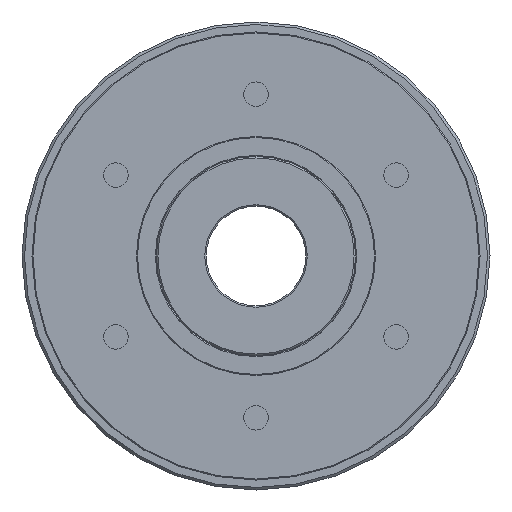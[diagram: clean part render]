
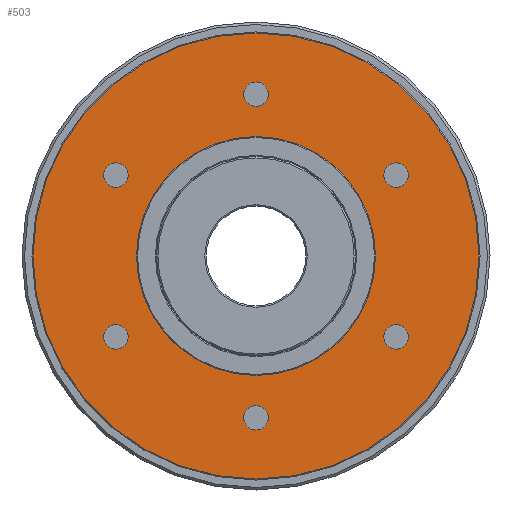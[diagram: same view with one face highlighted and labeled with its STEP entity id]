
A CAD part, left-side view. The second image highlights one B-rep face of the part: STEP entity #503.
In plain terms, the highlighted planar face has unit normal (-1, 0, 0).
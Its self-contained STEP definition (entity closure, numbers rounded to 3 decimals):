
#503 = ADVANCED_FACE( '', ( #1031, #1032, #1033, #1034, #1035, #1036, #1037, #1038 ), #1039, .T. );
#1031 = FACE_BOUND( '', #1731, .T. );
#1032 = FACE_BOUND( '', #1732, .T. );
#1033 = FACE_BOUND( '', #1733, .T. );
#1034 = FACE_BOUND( '', #1734, .T. );
#1035 = FACE_BOUND( '', #1735, .T. );
#1036 = FACE_BOUND( '', #1736, .T. );
#1037 = FACE_OUTER_BOUND( '', #1737, .T. );
#1038 = FACE_BOUND( '', #1738, .T. );
#1039 = PLANE( '', #1739 );
#1731 = EDGE_LOOP( '', ( #2475 ) );
#1732 = EDGE_LOOP( '', ( #2476 ) );
#1733 = EDGE_LOOP( '', ( #2477 ) );
#1734 = EDGE_LOOP( '', ( #2478 ) );
#1735 = EDGE_LOOP( '', ( #2479 ) );
#1736 = EDGE_LOOP( '', ( #2480 ) );
#1737 = EDGE_LOOP( '', ( #2481 ) );
#1738 = EDGE_LOOP( '', ( #2482 ) );
#1739 = AXIS2_PLACEMENT_3D( '', #2483, #2484, #2485 );
#2475 = ORIENTED_EDGE( '', *, *, #3450, .T. );
#2476 = ORIENTED_EDGE( '', *, *, #3451, .T. );
#2477 = ORIENTED_EDGE( '', *, *, #3366, .T. );
#2478 = ORIENTED_EDGE( '', *, *, #3452, .T. );
#2479 = ORIENTED_EDGE( '', *, *, #3453, .T. );
#2480 = ORIENTED_EDGE( '', *, *, #3454, .T. );
#2481 = ORIENTED_EDGE( '', *, *, #3455, .T. );
#2482 = ORIENTED_EDGE( '', *, *, #3456, .F. );
#2483 = CARTESIAN_POINT( '', ( 18.5, 0., 24. ) );
#2484 = DIRECTION( '', ( -1., 0., 0. ) );
#2485 = DIRECTION( '', ( 0., 0., 1. ) );
#3366 = EDGE_CURVE( '', #3784, #3784, #3785, .T. );
#3450 = EDGE_CURVE( '', #3921, #3921, #3922, .T. );
#3451 = EDGE_CURVE( '', #3923, #3923, #3924, .T. );
#3452 = EDGE_CURVE( '', #3925, #3925, #3926, .T. );
#3453 = EDGE_CURVE( '', #3927, #3927, #3928, .T. );
#3454 = EDGE_CURVE( '', #3929, #3929, #3930, .T. );
#3455 = EDGE_CURVE( '', #3931, #3931, #3932, .T. );
#3456 = EDGE_CURVE( '', #3933, #3933, #3934, .T. );
#3784 = VERTEX_POINT( '', #4523 );
#3785 = CIRCLE( '', #4524, 2.459 );
#3921 = VERTEX_POINT( '', #4678 );
#3922 = CIRCLE( '', #4679, 2.459 );
#3923 = VERTEX_POINT( '', #4680 );
#3924 = CIRCLE( '', #4681, 2.459 );
#3925 = VERTEX_POINT( '', #4682 );
#3926 = CIRCLE( '', #4683, 2.459 );
#3927 = VERTEX_POINT( '', #4684 );
#3928 = CIRCLE( '', #4685, 2.459 );
#3929 = VERTEX_POINT( '', #4686 );
#3930 = CIRCLE( '', #4687, 2.459 );
#3931 = VERTEX_POINT( '', #4688 );
#3932 = CIRCLE( '', #4689, 44.8 );
#3933 = VERTEX_POINT( '', #4690 );
#3934 = CIRCLE( '', #4691, 24. );
#4523 = CARTESIAN_POINT( '', ( 18.5, 0., -34.959 ) );
#4524 = AXIS2_PLACEMENT_3D( '', #5423, #5424, #5425 );
#4678 = CARTESIAN_POINT( '', ( 18.5, 30.275, 17.479 ) );
#4679 = AXIS2_PLACEMENT_3D( '', #5561, #5562, #5563 );
#4680 = CARTESIAN_POINT( '', ( 18.5, 30.275, -17.479 ) );
#4681 = AXIS2_PLACEMENT_3D( '', #5564, #5565, #5566 );
#4682 = CARTESIAN_POINT( '', ( 18.5, -30.275, -17.479 ) );
#4683 = AXIS2_PLACEMENT_3D( '', #5567, #5568, #5569 );
#4684 = CARTESIAN_POINT( '', ( 18.5, -30.275, 17.479 ) );
#4685 = AXIS2_PLACEMENT_3D( '', #5570, #5571, #5572 );
#4686 = CARTESIAN_POINT( '', ( 18.5, 0., 34.959 ) );
#4687 = AXIS2_PLACEMENT_3D( '', #5573, #5574, #5575 );
#4688 = CARTESIAN_POINT( '', ( 18.5, 0., 44.8 ) );
#4689 = AXIS2_PLACEMENT_3D( '', #5576, #5577, #5578 );
#4690 = CARTESIAN_POINT( '', ( 18.5, 0., 24. ) );
#4691 = AXIS2_PLACEMENT_3D( '', #5579, #5580, #5581 );
#5423 = CARTESIAN_POINT( '', ( 18.5, 0., -32.5 ) );
#5424 = DIRECTION( '', ( 1., 0., 0. ) );
#5425 = DIRECTION( '', ( 0., 0., -1. ) );
#5561 = CARTESIAN_POINT( '', ( 18.5, 28.146, 16.25 ) );
#5562 = DIRECTION( '', ( 1., 0., 0. ) );
#5563 = DIRECTION( '', ( 0., 0.866, 0.5 ) );
#5564 = CARTESIAN_POINT( '', ( 18.5, 28.146, -16.25 ) );
#5565 = DIRECTION( '', ( 1., 0., 0. ) );
#5566 = DIRECTION( '', ( 0., 0.866, -0.5 ) );
#5567 = CARTESIAN_POINT( '', ( 18.5, -28.146, -16.25 ) );
#5568 = DIRECTION( '', ( 1., 0., 0. ) );
#5569 = DIRECTION( '', ( 0., -0.866, -0.5 ) );
#5570 = CARTESIAN_POINT( '', ( 18.5, -28.146, 16.25 ) );
#5571 = DIRECTION( '', ( 1., 0., 0. ) );
#5572 = DIRECTION( '', ( 0., -0.866, 0.5 ) );
#5573 = CARTESIAN_POINT( '', ( 18.5, 0., 32.5 ) );
#5574 = DIRECTION( '', ( 1., 0., 0. ) );
#5575 = DIRECTION( '', ( 0., 0., 1. ) );
#5576 = CARTESIAN_POINT( '', ( 18.5, 0., 0. ) );
#5577 = DIRECTION( '', ( -1., 0., 0. ) );
#5578 = DIRECTION( '', ( 0., 0., 1. ) );
#5579 = CARTESIAN_POINT( '', ( 18.5, 0., 0. ) );
#5580 = DIRECTION( '', ( -1., 0., 0. ) );
#5581 = DIRECTION( '', ( 0., 0., 1. ) );
